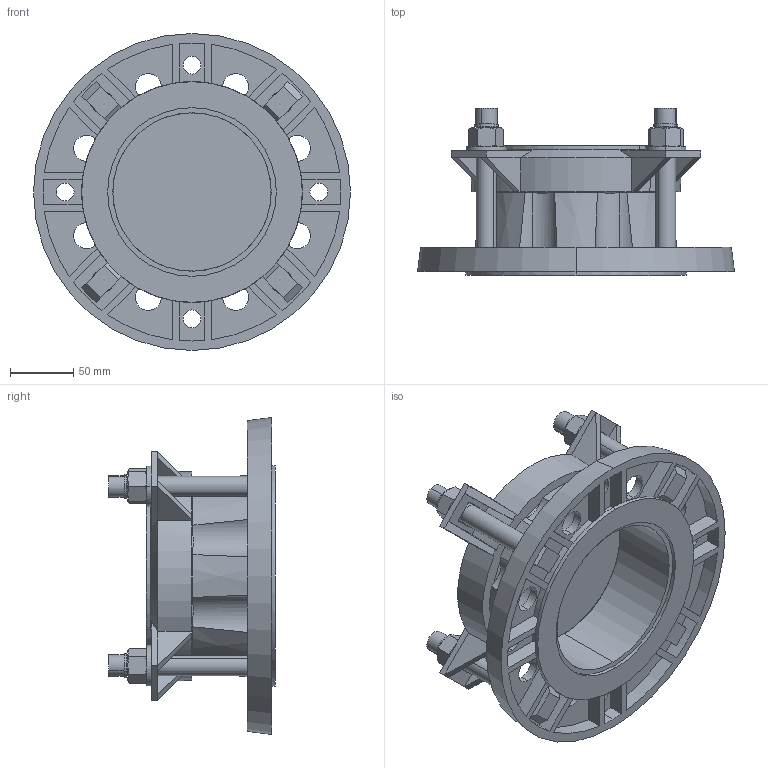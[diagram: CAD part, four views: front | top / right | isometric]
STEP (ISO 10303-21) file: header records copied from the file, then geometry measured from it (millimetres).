
FILE_DESCRIPTION (( 'STEP AP203' ), '1' );
FILE_NAME ('O_623_10_DN100-125mm_X2XXXXX_REV01.step', '2020-04-17T08:29:46', ( '' ), ( '' ), 'SwSTEP 2.0', 'SolidWorks 2019', '' );
FILE_SCHEMA (( 'CONFIG_CONTROL_DESIGN' ));
Length unit declared in the file: millimetre
Products named in the file (1): O_623_10_DN100-125mm_X2XXXXX_REV01
Bounding box: 250 x 131.5 x 250 mm (x, y, z)
Volume: 1160721 mm3; surface area: 289134.8 mm2
Topology: 1 solids, 1 shells, 509 faces, 1306 edges, 822 vertices
Faces by surface type: plane 264, cylinder 162, cone 81, bspline 2
Entity records: 16244 total; most frequent: CARTESIAN_POINT 3807, ORIENTED_EDGE 2612, DIRECTION 2562, EDGE_CURVE 1306, AXIS2_PLACEMENT_3D 987, VERTEX_POINT 822, LINE 588, VECTOR 588
